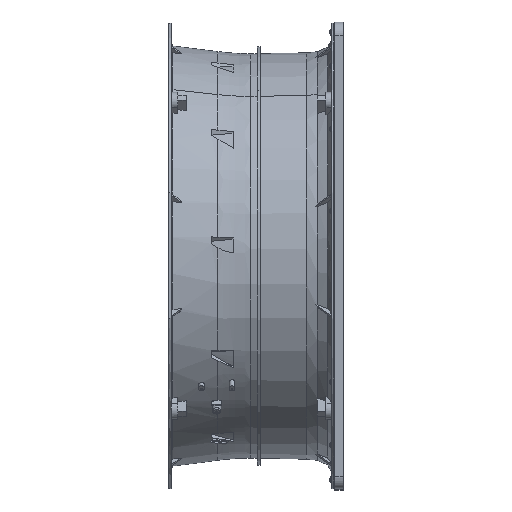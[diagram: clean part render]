
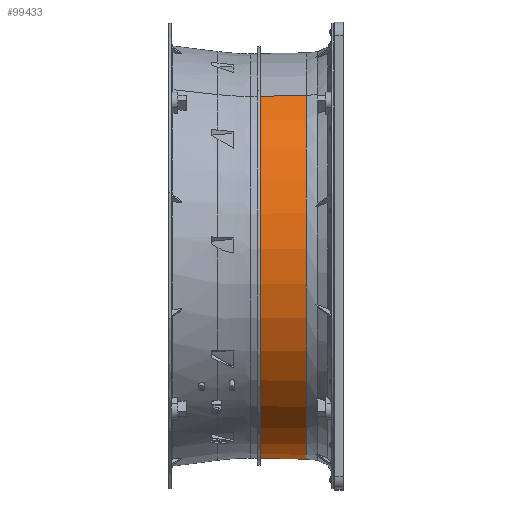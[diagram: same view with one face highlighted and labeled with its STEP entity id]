
A CAD part, top view. The second image highlights one B-rep face of the part: STEP entity #99433.
In plain terms, the highlighted conical face has half-angle 0.869 degrees and reference radius 464.699 mm.
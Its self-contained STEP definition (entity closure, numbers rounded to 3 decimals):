
#12820=CARTESIAN_POINT('',(237.756,0.,0.));
#12821=DIRECTION('',(1.,0.,0.));
#12822=DIRECTION('',(0.,0.788,0.616));
#12823=AXIS2_PLACEMENT_3D('',#12820,#12821,#12822);
#15333=CARTESIAN_POINT('',(132.207,0.,0.));
#15334=DIRECTION('',(-1.,0.,0.));
#15335=DIRECTION('',(0.,-0.788,-0.616));
#15336=AXIS2_PLACEMENT_3D('',#15333,#15334,#15335);
#15338=DIRECTION('',(1.,0.012,0.009));
#15339=VECTOR('',#15338,105.561);
#15340=CARTESIAN_POINT('',(132.207,365.557,285.605));
#15341=LINE('',#15340,#15339);
#15342=DIRECTION('',(1.,-0.012,-0.009));
#15343=VECTOR('',#15342,105.561);
#15344=CARTESIAN_POINT('',(132.207,-365.557,
-285.605));
#15345=LINE('',#15344,#15343);
#67980=CARTESIAN_POINT('',(132.207,365.557,285.605));
#67981=VERTEX_POINT('',#67980);
#67982=CARTESIAN_POINT('',(132.207,-365.557,
-285.605));
#67983=VERTEX_POINT('',#67982);
#69451=CARTESIAN_POINT('',(237.756,366.818,286.59));
#69452=VERTEX_POINT('',#69451);
#69453=CARTESIAN_POINT('',(237.756,-366.818,
-286.59));
#69454=VERTEX_POINT('',#69453);
#99422=CARTESIAN_POINT('',(184.982,0.,0.));
#99423=DIRECTION('',(1.,0.,0.));
#99424=DIRECTION('',(0.,0.788,0.616));
#99425=AXIS2_PLACEMENT_3D('',#99422,#99423,#99424);
#99426=CONICAL_SURFACE('',#99425,464.699,0.869);
#99427=ORIENTED_EDGE('',*,*,#99414,.T.);
#99428=ORIENTED_EDGE('',*,*,#99388,.T.);
#99429=ORIENTED_EDGE('',*,*,#98557,.T.);
#99430=ORIENTED_EDGE('',*,*,#99385,.F.);
#99431=EDGE_LOOP('',(#99427,#99428,#99429,#99430));
#99432=FACE_OUTER_BOUND('',#99431,.F.);
#12824=CIRCLE('',#12823,465.499);
#15337=CIRCLE('',#15336,463.899);
#98557=EDGE_CURVE('',#69452,#69454,#12824,.T.);
#99385=EDGE_CURVE('',#67983,#69454,#15345,.T.);
#99388=EDGE_CURVE('',#67981,#69452,#15341,.T.);
#99414=EDGE_CURVE('',#67983,#67981,#15337,.T.);
#99433=ADVANCED_FACE('',(#99432),#99426,.T.);
